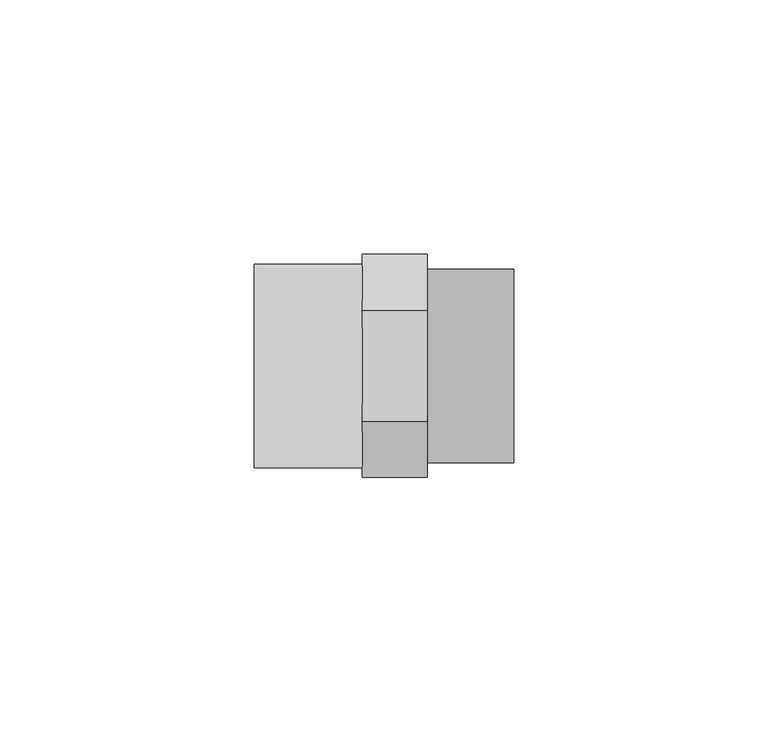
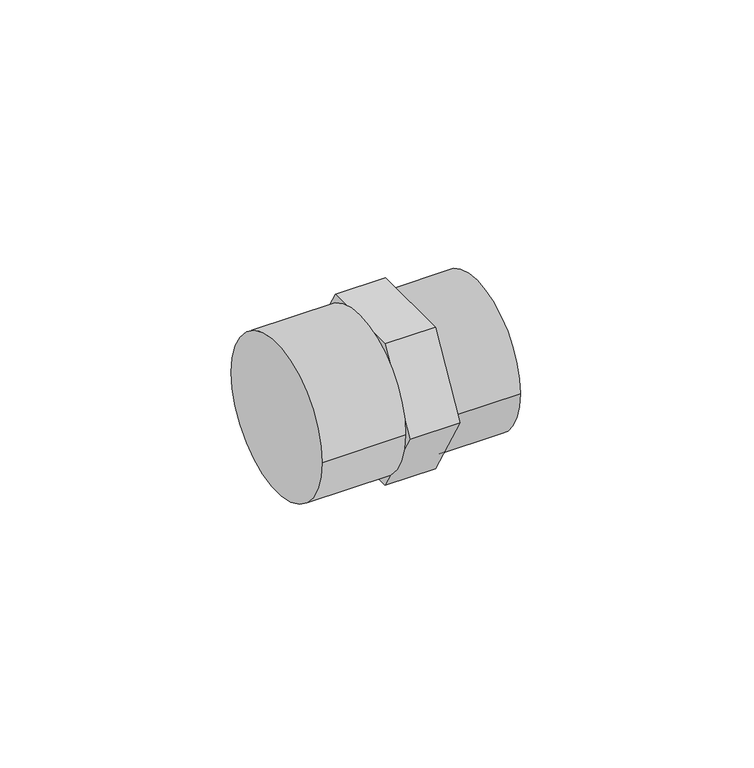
"""IFC4 building model written with IfcOpenShell, lengths in millimetres: pipe fitting geometry."""

from ifc_helpers import new_model, si_unit, point, frame, origin, origin_2d, place, context, project, spatial, polyline, circle_curve, trimmed, segment, composite_curve, outline, extrude, source, transform, mapped, element, save


def pipe_fitting_662f025f(model_context):
    return source(origin(), model_context, "Body", "SweptSolid", [
        extrude(outline(composite_curve([segment(trimmed(circle_curve(origin_2d(), 20.0), [point((20.0, 0.0))], [point((-20.0, 0.0))], False, "CARTESIAN"), True, "CONTINUOUS"), segment(trimmed(circle_curve(origin_2d(), 20.0), [point((-20.0, 0.0))], [point((20.0, 0.0))], False, "CARTESIAN"), True, "CONTINUOUS")], self_intersect=False)), frame((0.0, 0.0, 0.0), z_axis=(1.0, 0.0, 0.0), x_axis=(0.0, 1.0, 0.0)), (0.0, 0.0, 1.0), 21.25),
        extrude(outline(polyline([(-10.9696551, 19.0), (10.9696551, 19.0), (21.9393102, 0.0), (10.9696551, -19.0), (-10.9696551, -19.0), (-21.9393102, 0.0), (-10.9696551, 19.0)])), frame((21.25, 0.0, 0.0), z_axis=(1.0, 0.0, 0.0), x_axis=(0.0, 1.0, 0.0)), (0.0, 0.0, 1.0), 12.75),
        extrude(outline(composite_curve([segment(trimmed(circle_curve(origin_2d(), 19.0), [point((-19.0, 0.0))], [point((19.0, 0.0))], False, "CARTESIAN"), True, "CONTINUOUS"), segment(trimmed(circle_curve(origin_2d(), 19.0), [point((19.0, 0.0))], [point((-19.0, 0.0))], False, "CARTESIAN"), True, "CONTINUOUS")], self_intersect=False)), frame((34.0, 0.0, 0.0), z_axis=(1.0, 0.0, 0.0), x_axis=(0.0, 1.0, 0.0)), (0.0, 0.0, 1.0), 17.0),
    ])


if __name__ == "__main__":
    model = new_model("IFC4")
    model_context = context("Model", 3, world=origin())
    ifc_project = project(units=[si_unit("LENGTHUNIT", "METRE", prefix="MILLI")], contexts=[model_context])
    site = spatial("IfcSite", under=ifc_project)
    building = spatial("IfcBuilding", under=site)
    placement = place(None, origin())
    pipe_fitting_shape = pipe_fitting_662f025f(model_context)
    element("IfcPipeFitting", 1, at=placement, inside=building, context=model_context, shape_type="MappedRepresentation", body=[
        mapped(pipe_fitting_shape, transform((0.0, 0.0, 0.0), x_axis=(1.0, 0.0, 0.0), y_axis=(0.0, 1.0, 0.0), z_axis=(0.0, 0.0, 1.0))),
    ])
    save(model, "model.ifc")
